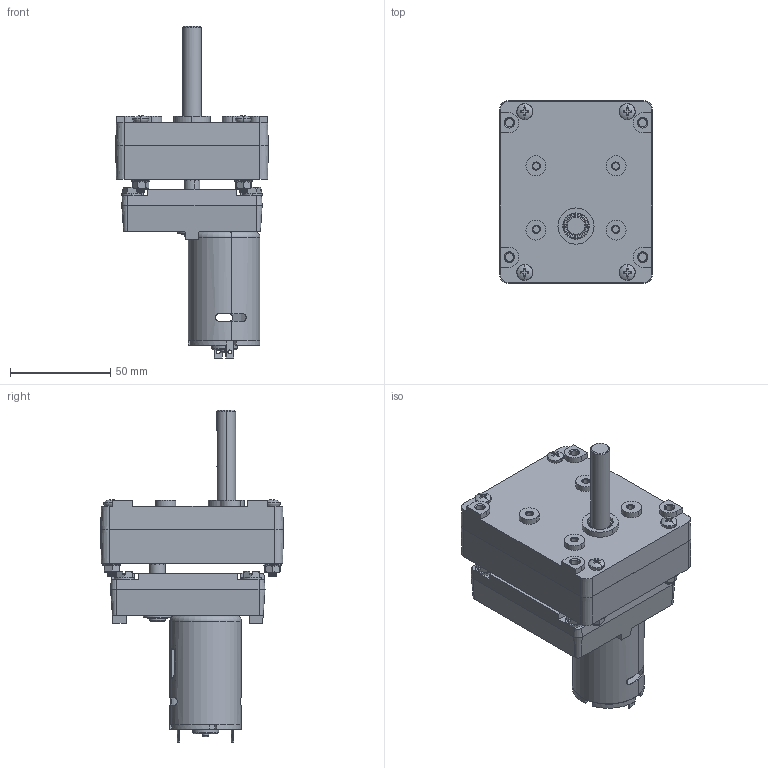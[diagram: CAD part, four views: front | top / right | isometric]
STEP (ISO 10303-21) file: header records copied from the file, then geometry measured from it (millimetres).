
FILE_DESCRIPTION (( 'STEP AP203' ), '1' );
FILE_NAME ('CJ-013-MRD 710-1314.STEP', '2018-08-13T13:24:50', ( '' ), ( '' ), 'SwSTEP 2.0', 'SolidWorks 2018', '' );
FILE_SCHEMA (( 'CONFIG_CONTROL_DESIGN' ));
Length unit declared in the file: millimetre
Products named in the file (2): CJ-013-MRD 710-1314
Bounding box: 76.04 x 91.04 x 165.5 mm (x, y, z)
Surface area: 64687.7 mm2 (no closed solid volume)
Topology: 0 solids, 56 shells, 1263 faces, 4570 edges, 3340 vertices
Faces by surface type: cylinder 666, plane 443, cone 118, torus 28, bspline 8
Entity records: 70337 total; most frequent: CARTESIAN_POINT 35304, ORIENTED_EDGE 7557, DIRECTION 6343, EDGE_CURVE 4570, VERTEX_POINT 3340, VECTOR 2197, LINE 2197, AXIS2_PLACEMENT_3D 2073
